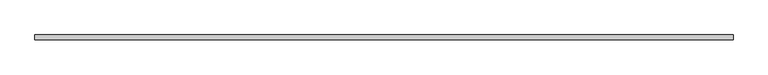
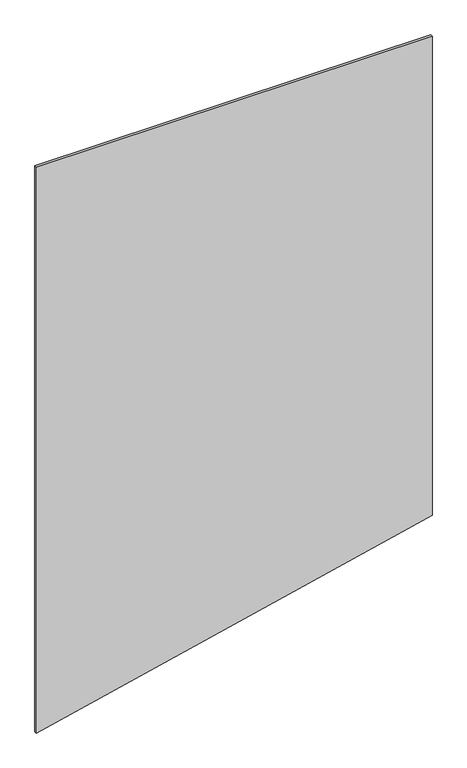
"""IFC4 building model written with IfcOpenShell, lengths in millimetres: plate geometry, 系統嵌板 : 玻璃 1.0cm."""

from ifc_helpers import new_model, si_unit, frame, origin, place, context, project, spatial, polyline, outline, extrude, source, transform, mapped, element, save


def plate_7fde9992(model_context):
    return source(origin(), model_context, "Body", "SweptSolid", [
        extrude(outline(polyline([(0.0, -750.0), (347.4262463, 750.0), (2267.2204946, 750.0), (2267.2204946, -750.0), (0.0, -750.0)])), frame((0.0, -5.0, 0.0), z_axis=(0.0, 1.0, 0.0), x_axis=(0.0, 0.0, 1.0)), (0.0, 0.0, 1.0), 10.0),
    ])


if __name__ == "__main__":
    model = new_model("IFC4")
    model_context = context("Model", 3, world=origin())
    ifc_project = project(units=[si_unit("LENGTHUNIT", "METRE", prefix="MILLI")], contexts=[model_context])
    site = spatial("IfcSite", under=ifc_project)
    building = spatial("IfcBuilding", under=site)
    placement = place(None, origin())
    plate_shape = plate_7fde9992(model_context)
    element("IfcPlate", 1, ObjectType="系統嵌板 : 玻璃 1.0cm", at=placement, inside=building, context=model_context, shape_type="MappedRepresentation", body=[
        mapped(plate_shape, transform((0.0, 0.0, 0.0), x_axis=(1.0, 0.0, 0.0), y_axis=(0.0, 1.0, 0.0), z_axis=(0.0, 0.0, 1.0))),
    ])
    save(model, "model.ifc")
